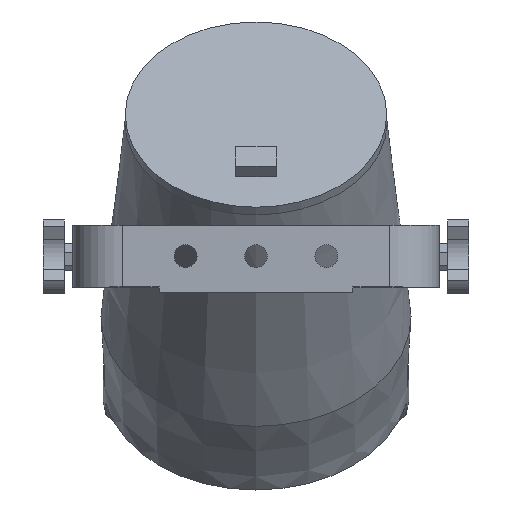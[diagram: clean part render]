
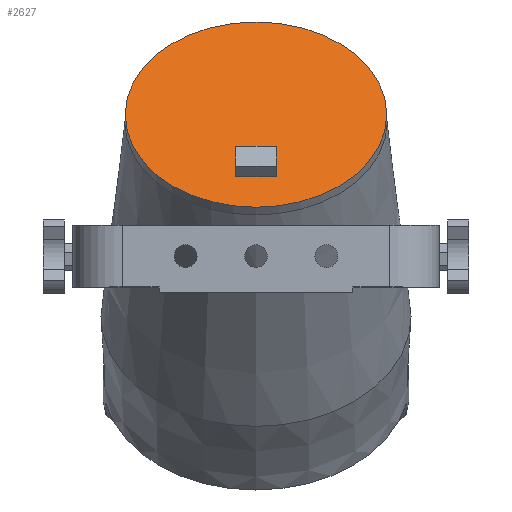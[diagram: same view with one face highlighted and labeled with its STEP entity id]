
A CAD part, top view. The second image highlights one B-rep face of the part: STEP entity #2627.
In plain terms, the highlighted planar face has unit normal (0, 0.705, 0.709) as drawn and (0, 0, 1) by its records, which use the part's own axes.
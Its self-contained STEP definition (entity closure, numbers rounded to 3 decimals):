
#79=FACE_BOUND('',#504,.T.);
#177=CIRCLE('',#2887,74.315);
#178=CIRCLE('',#2888,74.315);
#352=FACE_OUTER_BOUND('',#503,.T.);
#503=EDGE_LOOP('',(#2383,#2384));
#504=EDGE_LOOP('',(#2385,#2386,#2387,#2388));
#698=LINE('',#4169,#950);
#702=LINE('',#4177,#954);
#707=LINE('',#4187,#959);
#709=LINE('',#4190,#961);
#950=VECTOR('',#3430,10.);
#954=VECTOR('',#3436,10.);
#959=VECTOR('',#3445,10.);
#961=VECTOR('',#3449,10.);
#1191=VERTEX_POINT('',#4167);
#1192=VERTEX_POINT('',#4168);
#1195=VERTEX_POINT('',#4176);
#1198=VERTEX_POINT('',#4186);
#1264=VERTEX_POINT('',#4596);
#1265=VERTEX_POINT('',#4597);
#1533=EDGE_CURVE('',#1191,#1192,#698,.T.);
#1537=EDGE_CURVE('',#1195,#1191,#702,.T.);
#1542=EDGE_CURVE('',#1192,#1198,#707,.T.);
#1544=EDGE_CURVE('',#1198,#1195,#709,.T.);
#1641=EDGE_CURVE('',#1264,#1265,#177,.T.);
#1642=EDGE_CURVE('',#1265,#1264,#178,.T.);
#2383=ORIENTED_EDGE('',*,*,#1641,.T.);
#2384=ORIENTED_EDGE('',*,*,#1642,.T.);
#2385=ORIENTED_EDGE('',*,*,#1537,.T.);
#2386=ORIENTED_EDGE('',*,*,#1533,.T.);
#2387=ORIENTED_EDGE('',*,*,#1542,.T.);
#2388=ORIENTED_EDGE('',*,*,#1544,.T.);
#2493=PLANE('',#2886);
#2627=ADVANCED_FACE('',(#352,#79),#2493,.T.);
#2886=AXIS2_PLACEMENT_3D('',#4595,#3607,#3608);
#2887=AXIS2_PLACEMENT_3D('',#4598,#3609,#3610);
#2888=AXIS2_PLACEMENT_3D('',#4599,#3611,#3612);
#3430=DIRECTION('',(0.,1.,0.));
#3436=DIRECTION('',(-1.,0.,0.));
#3445=DIRECTION('',(1.,0.,0.));
#3449=DIRECTION('',(0.,-1.,0.));
#3607=DIRECTION('center_axis',(0.,0.,1.));
#3608=DIRECTION('ref_axis',(1.,0.,0.));
#3609=DIRECTION('center_axis',(0.,0.,1.));
#3610=DIRECTION('ref_axis',(1.,0.,0.));
#3611=DIRECTION('center_axis',(0.,0.,1.));
#3612=DIRECTION('ref_axis',(1.,0.,0.));
#4167=CARTESIAN_POINT('',(-11.5,-50.,151.5));
#4168=CARTESIAN_POINT('',(-11.5,-34.,151.5));
#4169=CARTESIAN_POINT('',(-11.5,-17.5,151.5));
#4176=CARTESIAN_POINT('',(11.5,-50.,151.5));
#4177=CARTESIAN_POINT('',(-5.25,-50.,151.5));
#4186=CARTESIAN_POINT('',(11.5,-34.,151.5));
#4187=CARTESIAN_POINT('',(5.25,-34.,151.5));
#4190=CARTESIAN_POINT('',(11.5,-24.5,151.5));
#4595=CARTESIAN_POINT('Origin',(0.,0.,151.5));
#4596=CARTESIAN_POINT('',(0.,-74.315,151.5));
#4597=CARTESIAN_POINT('',(0.,74.315,151.5));
#4598=CARTESIAN_POINT('Origin',(0.,0.,151.5));
#4599=CARTESIAN_POINT('Origin',(0.,0.,151.5));
